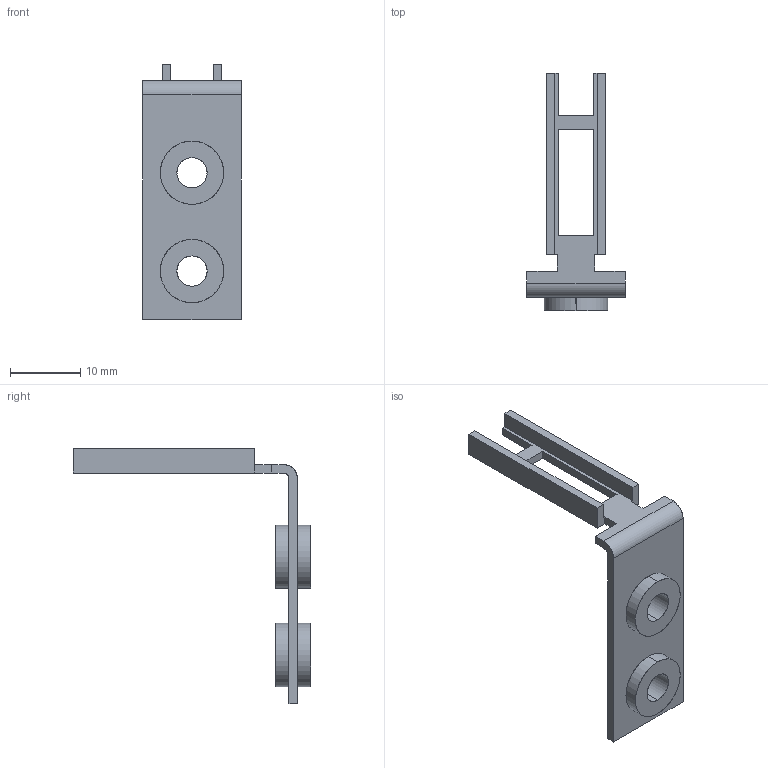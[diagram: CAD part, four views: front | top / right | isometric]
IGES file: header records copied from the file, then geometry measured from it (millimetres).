
Start section: SolidWorks IGES file using analytic representation for surfaces
Global section: file name: C:\catalog\sg-k12.IGS; native system: SolidWorks 2010; preprocessor: SolidWorks 2010; author: kk1675; date: 130723.150217; units: millimetre
Bounding box: 14 x 33.8 x 36.3 mm (x, y, z)
Surface area: 2051.6 mm2 (no closed solid volume)
Topology: 0 solids, 0 shells, 46 faces, 620 edges, 620 vertices
Faces by surface type: bspline 32, revolution 14
